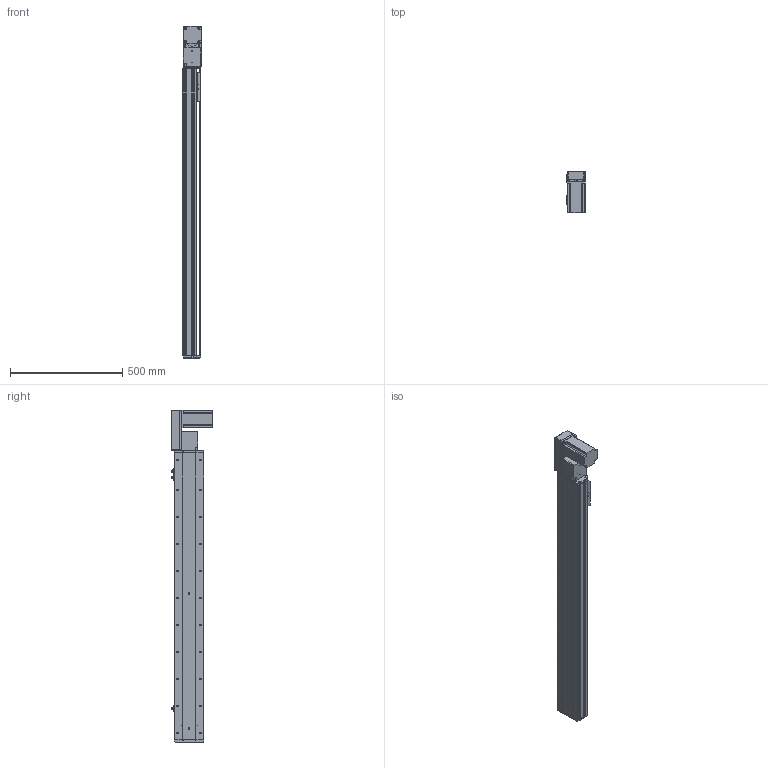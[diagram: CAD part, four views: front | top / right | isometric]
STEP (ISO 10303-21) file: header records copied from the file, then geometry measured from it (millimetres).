
FILE_DESCRIPTION (( 'STEP AP214' ), '1' );
FILE_NAME ('KSD130B-S1050-MRB-CM.STEP', '2019-11-15T07:31:00', ( '微软用户' ), ( '微软中国' ), 'SwSTEP 2.0', 'SolidWorks 2014', '' );
FILE_SCHEMA (( 'AUTOMOTIVE_DESIGN' ));
Length unit declared in the file: millimetre
Products named in the file (12): 130宽马达安装板同步带半封闭; 130宽同步带安装座半封闭; 130宽端盖同步带半封闭; 130宽底板半封闭同步带-1050行程; KSD130B-S1050-MRB-CM; 台达ECMA－C20807AS伺服电机; 130宽模组保护罩上下左右折-同步带; 130宽模组马达安装板连板左右折同步带; 覜茼え100遵圉猾敕; U倰嫖萇EEㄜSX672; 130宽盖板半封闭同步带-1050行程; 130宽马达安装板同步带右-改镜向_默认<按加工>
Assembly tree (13 placements, depth 2):
  KSD130B-S1050-MRB-CM
    130宽底板半封闭同步带-1050行程
    130宽端盖同步带半封闭
    130宽同步带安装座半封闭
    130宽马达安装板同步带半封闭
    130宽马达安装板同步带右-改镜向_默认<按加工>
    130宽盖板半封闭同步带-1050行程
    U倰嫖萇EEㄜSX672  x3
    覜茼え100遵圉猾敕
    130宽模组马达安装板连板左右折同步带
    130宽模组保护罩上下左右折-同步带
    台达ECMA－C20807AS伺服电机
Bounding box: 81 x 184.8 x 1477 mm (x, y, z)
Volume: 5123513.7 mm3; surface area: 1403144.7 mm2
Topology: 14 solids, 14 shells, 1547 faces, 4421 edges, 2821 vertices
Faces by surface type: cylinder 742, plane 626, cone 179
Entity records: 50999 total; most frequent: CARTESIAN_POINT 9486, DIRECTION 7755, ORIENTED_EDGE 7470, EDGE_CURVE 3735, AXIS2_PLACEMENT_3D 2830, VERTEX_POINT 2445, VECTOR 2095, LINE 2095
